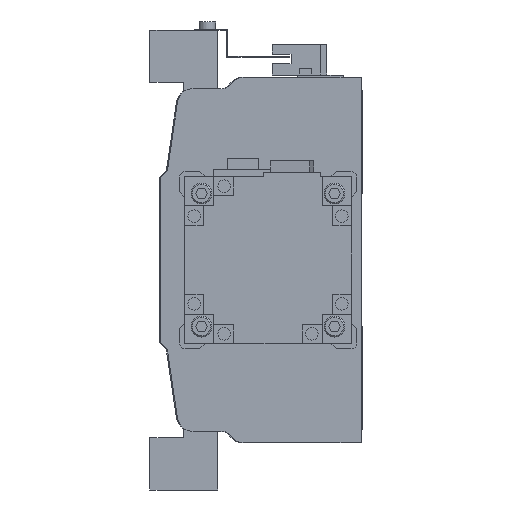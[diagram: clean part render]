
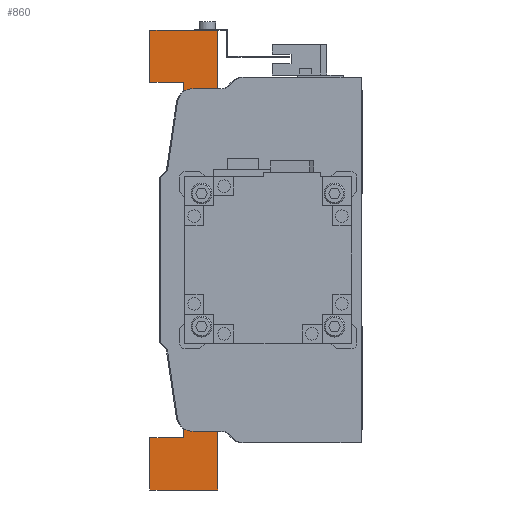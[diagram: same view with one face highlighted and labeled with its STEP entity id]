
A CAD part, left-side view. The second image highlights one B-rep face of the part: STEP entity #860.
In plain terms, the highlighted planar face has unit normal (-1, 0, 0).
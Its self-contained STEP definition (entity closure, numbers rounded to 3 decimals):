
#860 = ADVANCED_FACE( '', ( #2092 ), #2093, .F. );
#2092 = FACE_OUTER_BOUND( '', #3913, .T. );
#2093 = PLANE( '', #3914 );
#3913 = EDGE_LOOP( '', ( #6120, #6121, #6122, #6123, #6124, #6125, #6126, #6127, #6128, #6129, #6130, #6131, #6132, #6133, #6134, #6135 ) );
#3914 = AXIS2_PLACEMENT_3D( '', #6136, #6137, #6138 );
#6120 = ORIENTED_EDGE( '', *, *, #10729, .T. );
#6121 = ORIENTED_EDGE( '', *, *, #10730, .T. );
#6122 = ORIENTED_EDGE( '', *, *, #10731, .F. );
#6123 = ORIENTED_EDGE( '', *, *, #10732, .F. );
#6124 = ORIENTED_EDGE( '', *, *, #10733, .F. );
#6125 = ORIENTED_EDGE( '', *, *, #10734, .F. );
#6126 = ORIENTED_EDGE( '', *, *, #10735, .F. );
#6127 = ORIENTED_EDGE( '', *, *, #10736, .F. );
#6128 = ORIENTED_EDGE( '', *, *, #10737, .F. );
#6129 = ORIENTED_EDGE( '', *, *, #10738, .F. );
#6130 = ORIENTED_EDGE( '', *, *, #10739, .F. );
#6131 = ORIENTED_EDGE( '', *, *, #10740, .F. );
#6132 = ORIENTED_EDGE( '', *, *, #10741, .F. );
#6133 = ORIENTED_EDGE( '', *, *, #10742, .F. );
#6134 = ORIENTED_EDGE( '', *, *, #10743, .F. );
#6135 = ORIENTED_EDGE( '', *, *, #10744, .T. );
#6136 = CARTESIAN_POINT( '', ( -100., -56.5, 0. ) );
#6137 = DIRECTION( '', ( 1., 0., 0. ) );
#6138 = DIRECTION( '', ( 0., 0., -1. ) );
#10729 = EDGE_CURVE( '', #12905, #12906, #12907, .T. );
#10730 = EDGE_CURVE( '', #12906, #12908, #12909, .T. );
#10731 = EDGE_CURVE( '', #12910, #12908, #12911, .T. );
#10732 = EDGE_CURVE( '', #12912, #12910, #12913, .T. );
#10733 = EDGE_CURVE( '', #12914, #12912, #12915, .T. );
#10734 = EDGE_CURVE( '', #12916, #12914, #12917, .T. );
#10735 = EDGE_CURVE( '', #12918, #12916, #12919, .T. );
#10736 = EDGE_CURVE( '', #12920, #12918, #12921, .T. );
#10737 = EDGE_CURVE( '', #12922, #12920, #12923, .T. );
#10738 = EDGE_CURVE( '', #12924, #12922, #12925, .T. );
#10739 = EDGE_CURVE( '', #12926, #12924, #12927, .T. );
#10740 = EDGE_CURVE( '', #12928, #12926, #12929, .T. );
#10741 = EDGE_CURVE( '', #12930, #12928, #12931, .T. );
#10742 = EDGE_CURVE( '', #12932, #12930, #12933, .T. );
#10743 = EDGE_CURVE( '', #12934, #12932, #12935, .T. );
#10744 = EDGE_CURVE( '', #12934, #12905, #12936, .T. );
#12905 = VERTEX_POINT( '', #15982 );
#12906 = VERTEX_POINT( '', #15983 );
#12907 = LINE( '', #15984, #15985 );
#12908 = VERTEX_POINT( '', #15986 );
#12909 = CIRCLE( '', #15987, 31. );
#12910 = VERTEX_POINT( '', #15988 );
#12911 = LINE( '', #15989, #15990 );
#12912 = VERTEX_POINT( '', #15991 );
#12913 = LINE( '', #15992, #15993 );
#12914 = VERTEX_POINT( '', #15994 );
#12915 = LINE( '', #15995, #15996 );
#12916 = VERTEX_POINT( '', #15997 );
#12917 = LINE( '', #15998, #15999 );
#12918 = VERTEX_POINT( '', #16000 );
#12919 = LINE( '', #16001, #16002 );
#12920 = VERTEX_POINT( '', #16003 );
#12921 = LINE( '', #16004, #16005 );
#12922 = VERTEX_POINT( '', #16006 );
#12923 = LINE( '', #16007, #16008 );
#12924 = VERTEX_POINT( '', #16009 );
#12925 = LINE( '', #16010, #16011 );
#12926 = VERTEX_POINT( '', #16012 );
#12927 = LINE( '', #16013, #16014 );
#12928 = VERTEX_POINT( '', #16015 );
#12929 = LINE( '', #16016, #16017 );
#12930 = VERTEX_POINT( '', #16018 );
#12931 = LINE( '', #16019, #16020 );
#12932 = VERTEX_POINT( '', #16021 );
#12933 = LINE( '', #16022, #16023 );
#12934 = VERTEX_POINT( '', #16024 );
#12935 = LINE( '', #16025, #16026 );
#12936 = CIRCLE( '', #16027, 31. );
#15982 = CARTESIAN_POINT( '', ( -100., -32.5, -19.622 ) );
#15983 = CARTESIAN_POINT( '', ( -100., -32.5, 19.622 ) );
#15984 = CARTESIAN_POINT( '', ( -100., -32.5, -19.622 ) );
#15985 = VECTOR( '', #19401, 1000. );
#15986 = CARTESIAN_POINT( '', ( -100., -77.5, 22.803 ) );
#15987 = AXIS2_PLACEMENT_3D( '', #19402, #19403, #19404 );
#15988 = CARTESIAN_POINT( '', ( -100., -77.5, 34. ) );
#15989 = CARTESIAN_POINT( '', ( -100., -77.5, 34. ) );
#15990 = VECTOR( '', #19405, 1000. );
#15991 = CARTESIAN_POINT( '', ( -100., -32.5, 34. ) );
#15992 = CARTESIAN_POINT( '', ( -100., -32.5, 34. ) );
#15993 = VECTOR( '', #19406, 1000. );
#15994 = CARTESIAN_POINT( '', ( -100., -32.5, 110. ) );
#15995 = CARTESIAN_POINT( '', ( -100., -32.5, 110. ) );
#15996 = VECTOR( '', #19407, 1000. );
#15997 = CARTESIAN_POINT( '', ( -100., 0., 110. ) );
#15998 = CARTESIAN_POINT( '', ( -100., 0., 110. ) );
#15999 = VECTOR( '', #19408, 1000. );
#16000 = CARTESIAN_POINT( '', ( -100., 0., 85. ) );
#16001 = CARTESIAN_POINT( '', ( -100., 0., 85. ) );
#16002 = VECTOR( '', #19409, 1000. );
#16003 = CARTESIAN_POINT( '', ( -100., -16., 85. ) );
#16004 = CARTESIAN_POINT( '', ( -100., -16., 85. ) );
#16005 = VECTOR( '', #19410, 1000. );
#16006 = CARTESIAN_POINT( '', ( -100., -16., -85. ) );
#16007 = CARTESIAN_POINT( '', ( -100., -16., -85. ) );
#16008 = VECTOR( '', #19411, 1000. );
#16009 = CARTESIAN_POINT( '', ( -100., 0., -85. ) );
#16010 = CARTESIAN_POINT( '', ( -100., 0., -85. ) );
#16011 = VECTOR( '', #19412, 1000. );
#16012 = CARTESIAN_POINT( '', ( -100., 0., -110. ) );
#16013 = CARTESIAN_POINT( '', ( -100., 0., -110. ) );
#16014 = VECTOR( '', #19413, 1000. );
#16015 = CARTESIAN_POINT( '', ( -100., -32.5, -110. ) );
#16016 = CARTESIAN_POINT( '', ( -100., -32.5, -110. ) );
#16017 = VECTOR( '', #19414, 1000. );
#16018 = CARTESIAN_POINT( '', ( -100., -32.5, -34. ) );
#16019 = CARTESIAN_POINT( '', ( -100., -32.5, -34. ) );
#16020 = VECTOR( '', #19415, 1000. );
#16021 = CARTESIAN_POINT( '', ( -100., -77.5, -34. ) );
#16022 = CARTESIAN_POINT( '', ( -100., -77.5, -34. ) );
#16023 = VECTOR( '', #19416, 1000. );
#16024 = CARTESIAN_POINT( '', ( -100., -77.5, -22.803 ) );
#16025 = CARTESIAN_POINT( '', ( -100., -77.5, -13.242 ) );
#16026 = VECTOR( '', #19417, 1000. );
#16027 = AXIS2_PLACEMENT_3D( '', #19418, #19419, #19420 );
#19401 = DIRECTION( '', ( 0., 0., 1. ) );
#19402 = CARTESIAN_POINT( '', ( -100., -56.5, 0. ) );
#19403 = DIRECTION( '', ( 1., 0., 0. ) );
#19404 = DIRECTION( '', ( 0., 0., -1. ) );
#19405 = DIRECTION( '', ( 0., 0., -1. ) );
#19406 = DIRECTION( '', ( 0., -1., 0. ) );
#19407 = DIRECTION( '', ( 0., 0., -1. ) );
#19408 = DIRECTION( '', ( 0., -1., 0. ) );
#19409 = DIRECTION( '', ( 0., 0., 1. ) );
#19410 = DIRECTION( '', ( 0., 1., 0. ) );
#19411 = DIRECTION( '', ( 0., 0., 1. ) );
#19412 = DIRECTION( '', ( 0., -1., 0. ) );
#19413 = DIRECTION( '', ( 0., 0., 1. ) );
#19414 = DIRECTION( '', ( 0., 1., 0. ) );
#19415 = DIRECTION( '', ( 0., 0., -1. ) );
#19416 = DIRECTION( '', ( 0., 1., 0. ) );
#19417 = DIRECTION( '', ( 0., 0., -1. ) );
#19418 = CARTESIAN_POINT( '', ( -100., -56.5, 0. ) );
#19419 = DIRECTION( '', ( 1., 0., 0. ) );
#19420 = DIRECTION( '', ( 0., 0., -1. ) );
